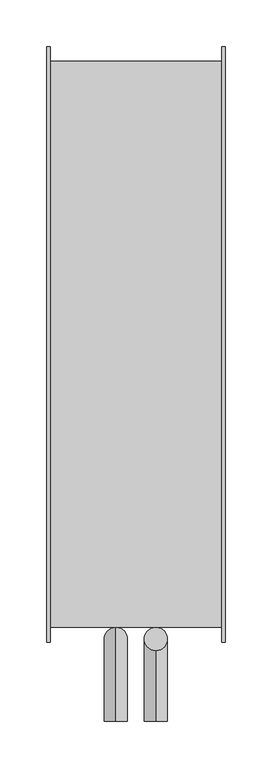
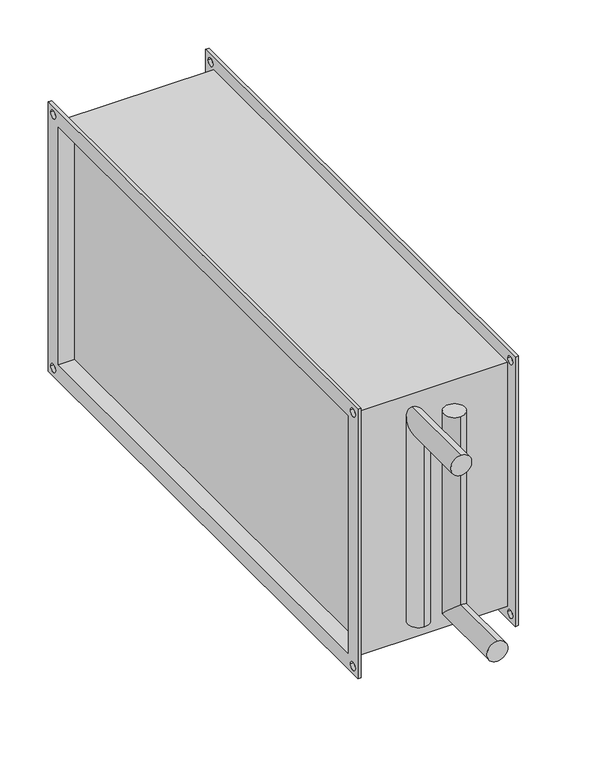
"""IFC4 building model written with IfcOpenShell, lengths in millimetres: proxy geometry, СВ_ВоздухонагревательВодяной_КанальныйПрямоугольный_200-1000_SPH-W : SPH-W-600x300/3."""

from ifc_helpers import new_model, si_unit, frame, origin, place, context, project, spatial, polyline, circle_curve, ellipse_curve, source, transform, mapped, element, save
from ifc_brep_helpers import plane_surface, cylinder_surface, revolved_surface, advanced_brep


def mechanical_equipment_ec22e7db(model_context):
    return source(origin(), model_context, "Body", "AdvancedBrep", [
        advanced_brep(
        [(21.5, -304.0, 125.0), (21.5, -329.0, 125.0), (21.5, -304.0, -137.5), (21.5, -329.0, -112.5), (21.5, -405.0, -137.5), (21.5, -405.0, -112.5)],
        [
            (0, 1, circle_curve(frame((21.5, -316.5, 125.0), z_axis=(0.0, 0.0, 1.0), x_axis=(0.0, -1.0, 0.0)), 12.5)),
            (1, 0, circle_curve(frame((21.5, -316.5, 125.0), z_axis=(0.0, 0.0, 1.0), x_axis=(0.0, -1.0, 0.0)), 12.5)),
            (0, 2),
            (2, 3, ellipse_curve(frame((21.5, -316.5, -125.0), z_axis=(0.0, 0.7071067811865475, 0.7071067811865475), x_axis=(0.0, -0.7071067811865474, 0.7071067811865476)), 17.6776695, 12.5)),
            (3, 1),
            (3, 2, ellipse_curve(frame((21.5, -316.5, -125.0), z_axis=(0.0, 0.7071067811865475, 0.7071067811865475), x_axis=(0.0, -0.7071067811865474, 0.7071067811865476)), 17.6776695, 12.5)),
            (4, 5, circle_curve(frame((21.5, -405.0, -125.0), z_axis=(0.0, -1.0, 0.0), x_axis=(0.0, 0.0, 1.0)), 12.5)),
            (5, 4, circle_curve(frame((21.5, -405.0, -125.0), z_axis=(0.0, -1.0, 0.0), x_axis=(0.0, 0.0, 1.0)), 12.5)),
            (2, 4),
            (5, 3),
        ],
        [
            plane_surface(frame((21.5, -316.5, 125.0), z_axis=(0.0, 0.0, 1.0), x_axis=(-1.0, 0.0, 0.0))),
            cylinder_surface(frame((21.5, -316.5, 125.0), z_axis=(0.0, 0.0, 1.0), x_axis=(0.0, -1.0, 0.0)), 12.5),
            plane_surface(frame((21.5, -405.0, -125.0), z_axis=(0.0, -1.0, 0.0), x_axis=(-1.0, 0.0, 0.0))),
            cylinder_surface(frame((21.5, -316.5, -125.0), z_axis=(0.0, 1.0, 0.0), x_axis=(0.0, 0.0, 1.0)), 12.5),
        ],
        [
            (0, [[1, 2]]),
            (1, [[-1, 3, 4, 5]]),
            (1, [[-2, -5, 6, -3]]),
            (2, [[7, 8]]),
            (3, [[-4, 9, -8, 10]]),
            (3, [[-6, -10, -7, -9]]),
        ],
    ),
        advanced_brep(
        [(-21.5, -304.0, -125.0), (-21.5, -329.0, -125.0), (-21.5, -304.0, 137.5), (-21.5, -329.0, 112.5), (-21.5, -405.0, 137.5), (-21.5, -405.0, 112.5)],
        [
            (0, 1, circle_curve(frame((-21.5, -316.5, -125.0), z_axis=(0.0, 0.0, -1.0), x_axis=(0.0, -1.0, 0.0)), 12.5)),
            (1, 0, circle_curve(frame((-21.5, -316.5, -125.0), z_axis=(0.0, 0.0, -1.0), x_axis=(0.0, -1.0, 0.0)), 12.5)),
            (0, 2),
            (2, 3, ellipse_curve(frame((-21.5, -316.5, 125.0), z_axis=(0.0, 0.7071067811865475, -0.7071067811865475), x_axis=(0.0, -0.7071067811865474, -0.7071067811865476)), 17.6776695, 12.5)),
            (3, 1),
            (3, 2, ellipse_curve(frame((-21.5, -316.5, 125.0), z_axis=(0.0, 0.7071067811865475, -0.7071067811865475), x_axis=(0.0, -0.7071067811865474, -0.7071067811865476)), 17.6776695, 12.5)),
            (4, 5, circle_curve(frame((-21.5, -405.0, 125.0), z_axis=(0.0, -1.0, 0.0), x_axis=(0.0, 0.0, -1.0)), 12.5)),
            (5, 4, circle_curve(frame((-21.5, -405.0, 125.0), z_axis=(0.0, -1.0, 0.0), x_axis=(0.0, 0.0, -1.0)), 12.5)),
            (2, 4),
            (5, 3),
        ],
        [
            plane_surface(frame((-21.5, -316.5, -125.0), z_axis=(0.0, 0.0, -1.0), x_axis=(1.0, 0.0, 0.0))),
            cylinder_surface(frame((-21.5, -316.5, -125.0), z_axis=(0.0, 0.0, -1.0), x_axis=(0.0, -1.0, 0.0)), 12.5),
            plane_surface(frame((-21.5, -405.0, 125.0), z_axis=(0.0, -1.0, 0.0), x_axis=(1.0, 0.0, 0.0))),
            cylinder_surface(frame((-21.5, -316.5, 125.0), z_axis=(0.0, 1.0, 0.0), x_axis=(0.0, 0.0, -1.0)), 12.5),
        ],
        [
            (0, [[1, 2]]),
            (1, [[-1, 3, 4, 5]]),
            (1, [[-2, -5, 6, -3]]),
            (2, [[7, 8]]),
            (3, [[-4, 9, -8, 10]]),
            (3, [[-6, -10, -7, -9]]),
        ],
    ),
        advanced_brep(
        [(-92.0, -304.0, 154.0), (-92.0, -304.0, -154.0), (92.0, -304.0, -154.0), (92.0, -304.0, 154.0), (-92.0, 304.0, -154.0), (92.0, 304.0, -154.0), (-92.0, 304.0, 154.0), (92.0, 304.0, 154.0), (76.0, 300.0, -150.0), (76.0, 300.0, 150.0), (76.0, -300.0, 150.0), (76.0, -300.0, -150.0), (-76.0, -300.0, 150.0), (-76.0, 300.0, 150.0), (-76.0, 300.0, -150.0), (-76.0, -300.0, -150.0), (-96.0, -320.0, 170.0), (-96.0, 320.0, 170.0), (-96.0, 320.0, -170.0), (-96.0, -320.0, -170.0), (-96.0, -300.0, 150.0), (-96.0, -300.0, -150.0), (-96.0, 300.0, -150.0), (-96.0, 300.0, 150.0), (-96.0, 305.0, 160.0), (-96.0, 315.0, 160.0), (-96.0, -315.0, 160.0), (-96.0, -305.0, 160.0), (-96.0, -315.0, -160.0), (-96.0, -305.0, -160.0), (-96.0, 305.0, -160.0), (-96.0, 315.0, -160.0), (-92.0, -320.0, 170.0), (-92.0, -320.0, -170.0), (-92.0, 320.0, -170.0), (-92.0, 320.0, 170.0), (-92.0, 315.0, 160.0), (-92.0, 305.0, 160.0), (-92.0, -305.0, 160.0), (-92.0, -315.0, 160.0), (-92.0, -305.0, -160.0), (-92.0, -315.0, -160.0), (-92.0, 315.0, -160.0), (-92.0, 305.0, -160.0), (92.0, 320.0, 170.0), (92.0, 320.0, -170.0), (92.0, -320.0, -170.0), (92.0, -320.0, 170.0), (92.0, 305.0, 160.0), (92.0, 315.0, 160.0), (92.0, -315.0, 160.0), (92.0, -305.0, 160.0), (92.0, -315.0, -160.0), (92.0, -305.0, -160.0), (92.0, 305.0, -160.0), (92.0, 315.0, -160.0), (96.0, 320.0, 170.0), (96.0, -320.0, 170.0), (96.0, -320.0, -170.0), (96.0, 320.0, -170.0), (96.0, 300.0, 150.0), (96.0, 300.0, -150.0), (96.0, -300.0, -150.0), (96.0, -300.0, 150.0), (96.0, 315.0, 160.0), (96.0, 305.0, 160.0), (96.0, -305.0, 160.0), (96.0, -315.0, 160.0), (96.0, -305.0, -160.0), (96.0, -315.0, -160.0), (96.0, 315.0, -160.0), (96.0, 305.0, -160.0)],
        [
            (0, 1),
            (1, 2),
            (2, 3),
            (3, 0),
            (1, 4),
            (4, 5),
            (5, 2),
            (4, 6),
            (6, 7),
            (7, 5),
            (6, 0),
            (3, 7),
            (8, 9),
            (9, 10),
            (10, 11),
            (11, 8),
            (12, 13),
            (13, 14),
            (14, 15),
            (15, 12),
            (16, 17),
            (17, 18),
            (18, 19),
            (19, 16),
            (20, 21),
            (21, 22),
            (22, 23),
            (23, 20),
            (24, 25, circle_curve(frame((-96.0, 310.0, 160.0), z_axis=(1.0, 0.0, 0.0), x_axis=(0.0, -1.0, 0.0)), 5.0)),
            (25, 24, circle_curve(frame((-96.0, 310.0, 160.0), z_axis=(1.0, 0.0, 0.0), x_axis=(0.0, -1.0, 0.0)), 5.0)),
            (26, 27, circle_curve(frame((-96.0, -310.0, 160.0), z_axis=(1.0, 0.0, 0.0), x_axis=(0.0, -1.0, 0.0)), 5.0)),
            (27, 26, circle_curve(frame((-96.0, -310.0, 160.0), z_axis=(1.0, 0.0, 0.0), x_axis=(0.0, -1.0, 0.0)), 5.0)),
            (28, 29, circle_curve(frame((-96.0, -310.0, -160.0), z_axis=(1.0, 0.0, 0.0), x_axis=(0.0, -1.0, 0.0)), 5.0)),
            (29, 28, circle_curve(frame((-96.0, -310.0, -160.0), z_axis=(1.0, 0.0, 0.0), x_axis=(0.0, -1.0, 0.0)), 5.0)),
            (30, 31, circle_curve(frame((-96.0, 310.0, -160.0), z_axis=(1.0, 0.0, 0.0), x_axis=(0.0, -1.0, 0.0)), 5.0)),
            (31, 30, circle_curve(frame((-96.0, 310.0, -160.0), z_axis=(1.0, 0.0, 0.0), x_axis=(0.0, -1.0, 0.0)), 5.0)),
            (32, 33),
            (33, 34),
            (34, 35),
            (35, 32),
            (36, 37, circle_curve(frame((-92.0, 310.0, 160.0), z_axis=(-1.0, 0.0, 0.0), x_axis=(0.0, -1.0, 0.0)), 5.0)),
            (37, 36, circle_curve(frame((-92.0, 310.0, 160.0), z_axis=(-1.0, 0.0, 0.0), x_axis=(0.0, -1.0, 0.0)), 5.0)),
            (38, 39, circle_curve(frame((-92.0, -310.0, 160.0), z_axis=(-1.0, 0.0, 0.0), x_axis=(0.0, -1.0, 0.0)), 5.0)),
            (39, 38, circle_curve(frame((-92.0, -310.0, 160.0), z_axis=(-1.0, 0.0, 0.0), x_axis=(0.0, -1.0, 0.0)), 5.0)),
            (40, 41, circle_curve(frame((-92.0, -310.0, -160.0), z_axis=(-1.0, 0.0, 0.0), x_axis=(0.0, -1.0, 0.0)), 5.0)),
            (41, 40, circle_curve(frame((-92.0, -310.0, -160.0), z_axis=(-1.0, 0.0, 0.0), x_axis=(0.0, -1.0, 0.0)), 5.0)),
            (42, 43, circle_curve(frame((-92.0, 310.0, -160.0), z_axis=(-1.0, 0.0, 0.0), x_axis=(0.0, -1.0, 0.0)), 5.0)),
            (43, 42, circle_curve(frame((-92.0, 310.0, -160.0), z_axis=(-1.0, 0.0, 0.0), x_axis=(0.0, -1.0, 0.0)), 5.0)),
            (19, 33),
            (32, 16),
            (18, 34),
            (17, 35),
            (44, 45),
            (45, 46),
            (46, 47),
            (47, 44),
            (48, 49, circle_curve(frame((92.0, 310.0, 160.0), z_axis=(1.0, 0.0, 0.0), x_axis=(0.0, -1.0, 0.0)), 5.0)),
            (49, 48, circle_curve(frame((92.0, 310.0, 160.0), z_axis=(1.0, 0.0, 0.0), x_axis=(0.0, -1.0, 0.0)), 5.0)),
            (50, 51, circle_curve(frame((92.0, -310.0, 160.0), z_axis=(1.0, 0.0, 0.0), x_axis=(0.0, -1.0, 0.0)), 5.0)),
            (51, 50, circle_curve(frame((92.0, -310.0, 160.0), z_axis=(1.0, 0.0, 0.0), x_axis=(0.0, -1.0, 0.0)), 5.0)),
            (52, 53, circle_curve(frame((92.0, -310.0, -160.0), z_axis=(1.0, 0.0, 0.0), x_axis=(0.0, -1.0, 0.0)), 5.0)),
            (53, 52, circle_curve(frame((92.0, -310.0, -160.0), z_axis=(1.0, 0.0, 0.0), x_axis=(0.0, -1.0, 0.0)), 5.0)),
            (54, 55, circle_curve(frame((92.0, 310.0, -160.0), z_axis=(1.0, 0.0, 0.0), x_axis=(0.0, -1.0, 0.0)), 5.0)),
            (55, 54, circle_curve(frame((92.0, 310.0, -160.0), z_axis=(1.0, 0.0, 0.0), x_axis=(0.0, -1.0, 0.0)), 5.0)),
            (56, 57),
            (57, 58),
            (58, 59),
            (59, 56),
            (60, 61),
            (61, 62),
            (62, 63),
            (63, 60),
            (64, 65, circle_curve(frame((96.0, 310.0, 160.0), z_axis=(-1.0, 0.0, 0.0), x_axis=(0.0, -1.0, 0.0)), 5.0)),
            (65, 64, circle_curve(frame((96.0, 310.0, 160.0), z_axis=(-1.0, 0.0, 0.0), x_axis=(0.0, -1.0, 0.0)), 5.0)),
            (66, 67, circle_curve(frame((96.0, -310.0, 160.0), z_axis=(-1.0, 0.0, 0.0), x_axis=(0.0, -1.0, 0.0)), 5.0)),
            (67, 66, circle_curve(frame((96.0, -310.0, 160.0), z_axis=(-1.0, 0.0, 0.0), x_axis=(0.0, -1.0, 0.0)), 5.0)),
            (68, 69, circle_curve(frame((96.0, -310.0, -160.0), z_axis=(-1.0, 0.0, 0.0), x_axis=(0.0, -1.0, 0.0)), 5.0)),
            (69, 68, circle_curve(frame((96.0, -310.0, -160.0), z_axis=(-1.0, 0.0, 0.0), x_axis=(0.0, -1.0, 0.0)), 5.0)),
            (70, 71, circle_curve(frame((96.0, 310.0, -160.0), z_axis=(-1.0, 0.0, 0.0), x_axis=(0.0, -1.0, 0.0)), 5.0)),
            (71, 70, circle_curve(frame((96.0, 310.0, -160.0), z_axis=(-1.0, 0.0, 0.0), x_axis=(0.0, -1.0, 0.0)), 5.0)),
            (47, 57),
            (56, 44),
            (46, 58),
            (45, 59),
            (23, 13),
            (12, 20),
            (22, 14),
            (21, 15),
            (60, 9),
            (8, 61),
            (11, 62),
            (10, 63),
            (36, 25),
            (24, 37),
            (64, 49),
            (48, 65),
            (38, 27),
            (26, 39),
            (66, 51),
            (50, 67),
            (40, 29),
            (28, 41),
            (68, 53),
            (52, 69),
            (42, 31),
            (30, 43),
            (70, 55),
            (54, 71),
        ],
        [
            plane_surface(frame((-76.0, -304.0, 154.0), z_axis=(0.0, -1.0, 0.0), x_axis=(-1.0, 0.0, 0.0))),
            plane_surface(frame((-76.0, -304.0, -154.0), z_axis=(0.0, 0.0, -1.0), x_axis=(-1.0, 0.0, 0.0))),
            plane_surface(frame((-76.0, 304.0, -154.0), z_axis=(0.0, 1.0, 0.0), x_axis=(-1.0, 0.0, 0.0))),
            plane_surface(frame((-76.0, 304.0, 154.0), z_axis=(0.0, 0.0, 1.0), x_axis=(-1.0, 0.0, 0.0))),
            plane_surface(frame((76.0, -304.0, 154.0), z_axis=(1.0, 0.0, 0.0), x_axis=(0.0, 0.0, -1.0))),
            plane_surface(frame((-76.0, -304.0, 154.0), z_axis=(-1.0, 0.0, 0.0), x_axis=(0.0, 0.0, 1.0))),
            plane_surface(frame((-96.0, -320.0, 170.0), z_axis=(-1.0, 0.0, 0.0), x_axis=(0.0, 0.0, 1.0))),
            plane_surface(frame((-92.0, -320.0, 170.0), z_axis=(1.0, 0.0, 0.0), x_axis=(0.0, 0.0, -1.0))),
            plane_surface(frame((-92.0, -320.0, 170.0), z_axis=(0.0, -1.0, 0.0), x_axis=(-1.0, 0.0, 0.0))),
            plane_surface(frame((-92.0, -320.0, -170.0), z_axis=(0.0, 0.0, -1.0), x_axis=(-1.0, 0.0, 0.0))),
            plane_surface(frame((-92.0, 320.0, -170.0), z_axis=(0.0, 1.0, 0.0), x_axis=(-1.0, 0.0, 0.0))),
            plane_surface(frame((-92.0, 320.0, 170.0), z_axis=(0.0, 0.0, 1.0), x_axis=(-1.0, 0.0, 0.0))),
            plane_surface(frame((92.0, 300.0, -150.0), z_axis=(-1.0, 0.0, 0.0), x_axis=(0.0, 0.0, 1.0))),
            plane_surface(frame((96.0, 300.0, -150.0), z_axis=(1.0, 0.0, 0.0), x_axis=(0.0, 0.0, -1.0))),
            plane_surface(frame((96.0, 320.0, 170.0), z_axis=(0.0, 0.0, 1.0), x_axis=(-1.0, 0.0, 0.0))),
            plane_surface(frame((96.0, -320.0, 170.0), z_axis=(0.0, -1.0, 0.0), x_axis=(-1.0, 0.0, 0.0))),
            plane_surface(frame((96.0, -320.0, -170.0), z_axis=(0.0, 0.0, -1.0), x_axis=(-1.0, 0.0, 0.0))),
            plane_surface(frame((96.0, 320.0, -170.0), z_axis=(0.0, 1.0, 0.0), x_axis=(-1.0, 0.0, 0.0))),
            plane_surface(frame((-92.0, -300.0, 150.0), z_axis=(0.0, 0.0, -1.0), x_axis=(-1.0, 0.0, 0.0))),
            plane_surface(frame((-92.0, 300.0, 150.0), z_axis=(0.0, -1.0, 0.0), x_axis=(-1.0, 0.0, 0.0))),
            plane_surface(frame((-92.0, 300.0, -150.0), z_axis=(0.0, 0.0, 1.0), x_axis=(-1.0, 0.0, 0.0))),
            plane_surface(frame((-92.0, -300.0, -150.0), z_axis=(0.0, 1.0, 0.0), x_axis=(-1.0, 0.0, 0.0))),
            plane_surface(frame((96.0, 300.0, 150.0), z_axis=(0.0, -1.0, 0.0), x_axis=(-1.0, 0.0, 0.0))),
            plane_surface(frame((96.0, 300.0, -150.0), z_axis=(0.0, 0.0, 1.0), x_axis=(-1.0, 0.0, 0.0))),
            plane_surface(frame((96.0, -300.0, -150.0), z_axis=(0.0, 1.0, 0.0), x_axis=(-1.0, 0.0, 0.0))),
            plane_surface(frame((96.0, -300.0, 150.0), z_axis=(0.0, 0.0, -1.0), x_axis=(-1.0, 0.0, 0.0))),
            revolved_surface(polyline([(-96.0, 305.0, 160.0), (-92.0, 305.0, 160.0)]), (96.0, 310.0, 160.0), (-1.0, 0.0, 0.0)),
            revolved_surface(polyline([(92.0, 305.0, 160.0), (96.0, 305.0, 160.0)]), (96.0, 310.0, 160.0), (-1.0, 0.0, 0.0)),
            revolved_surface(polyline([(-96.0, -315.0, 160.0), (-92.0, -315.0, 160.0)]), (21.5, -310.0, 160.0), (-1.0, 0.0, 0.0)),
            revolved_surface(polyline([(92.0, -315.0, 160.0), (96.0, -315.0, 160.0)]), (21.5, -310.0, 160.0), (-1.0, 0.0, 0.0)),
            revolved_surface(polyline([(-96.0, -315.0, -160.0), (-92.0, -315.0, -160.0)]), (21.5, -310.0, -160.0), (-1.0, 0.0, 0.0)),
            revolved_surface(polyline([(92.0, -315.0, -160.0), (96.0, -315.0, -160.0)]), (21.5, -310.0, -160.0), (-1.0, 0.0, 0.0)),
            revolved_surface(polyline([(-96.0, 305.0, -160.0), (-92.0, 305.0, -160.0)]), (21.5, 310.0, -160.0), (-1.0, 0.0, 0.0)),
            revolved_surface(polyline([(92.0, 305.0, -160.0), (96.0, 305.0, -160.0)]), (21.5, 310.0, -160.0), (-1.0, 0.0, 0.0)),
        ],
        [
            (0, [[1, 2, 3, 4]]),
            (1, [[-2, 5, 6, 7]]),
            (2, [[-6, 8, 9, 10]]),
            (3, [[-9, 11, -4, 12]]),
            (4, [[13, 14, 15, 16]]),
            (5, [[17, 18, 19, 20]]),
            (6, [[21, 22, 23, 24], [25, 26, 27, 28], [29, 30], [31, 32], [33, 34], [35, 36]]),
            (7, [[37, 38, 39, 40], [-1, -11, -8, -5], [41, 42], [43, 44], [45, 46], [47, 48]]),
            (8, [[-24, 49, -37, 50]]),
            (9, [[-23, 51, -38, -49]]),
            (10, [[-22, 52, -39, -51]]),
            (11, [[-21, -50, -40, -52]]),
            (12, [[53, 54, 55, 56], [-3, -7, -10, -12], [57, 58], [59, 60], [61, 62], [63, 64]]),
            (13, [[65, 66, 67, 68], [69, 70, 71, 72], [73, 74], [75, 76], [77, 78], [79, 80]]),
            (14, [[-56, 81, -65, 82]]),
            (15, [[-55, 83, -66, -81]]),
            (16, [[-54, 84, -67, -83]]),
            (17, [[-53, -82, -68, -84]]),
            (18, [[-28, 85, -17, 86]]),
            (19, [[-27, 87, -18, -85]]),
            (20, [[-26, 88, -19, -87]]),
            (21, [[-25, -86, -20, -88]]),
            (22, [[-69, 89, -13, 90]]),
            (23, [[-70, -90, -16, 91]]),
            (24, [[-71, -91, -15, 92]]),
            (25, [[-89, -72, -92, -14]]),
            (26, [[93, -29, 94, -41]]),
            (27, [[95, -57, 96, -73]]),
            (26, [[-93, -42, -94, -30]]),
            (27, [[-95, -74, -96, -58]]),
            (28, [[97, -31, 98, -43]]),
            (29, [[99, -59, 100, -75]]),
            (28, [[-97, -44, -98, -32]]),
            (29, [[-99, -76, -100, -60]]),
            (30, [[101, -33, 102, -45]]),
            (31, [[103, -61, 104, -77]]),
            (30, [[-101, -46, -102, -34]]),
            (31, [[-103, -78, -104, -62]]),
            (32, [[105, -35, 106, -47]]),
            (33, [[107, -63, 108, -79]]),
            (32, [[-105, -48, -106, -36]]),
            (33, [[-107, -80, -108, -64]]),
        ],
    ),
    ])


if __name__ == "__main__":
    model = new_model("IFC4")
    model_context = context("Model", 3, world=origin())
    ifc_project = project(units=[si_unit("LENGTHUNIT", "METRE", prefix="MILLI")], contexts=[model_context])
    site = spatial("IfcSite", under=ifc_project)
    building = spatial("IfcBuilding", under=site)
    placement = place(None, origin())
    mechanical_equipment_shape = mechanical_equipment_ec22e7db(model_context)
    element("IfcBuildingElementProxy", 1, Name="СВ_ВоздухонагревательВодяной_КанальныйПрямоугольный_200-1000_SPH-W : SPH-W-600x300/3", ObjectType="СВ_ВоздухонагревательВодяной_КанальныйПрямоугольный_200-1000_SPH-W : SPH-W-600x300/3", at=placement, inside=building, context=model_context, shape_type="MappedRepresentation", body=[
        mapped(mechanical_equipment_shape, transform((0.0, 0.0, 0.0), x_axis=(1.0, 0.0, 0.0), y_axis=(0.0, 1.0, 0.0), z_axis=(0.0, 0.0, 1.0))),
    ])
    save(model, "model.ifc")
